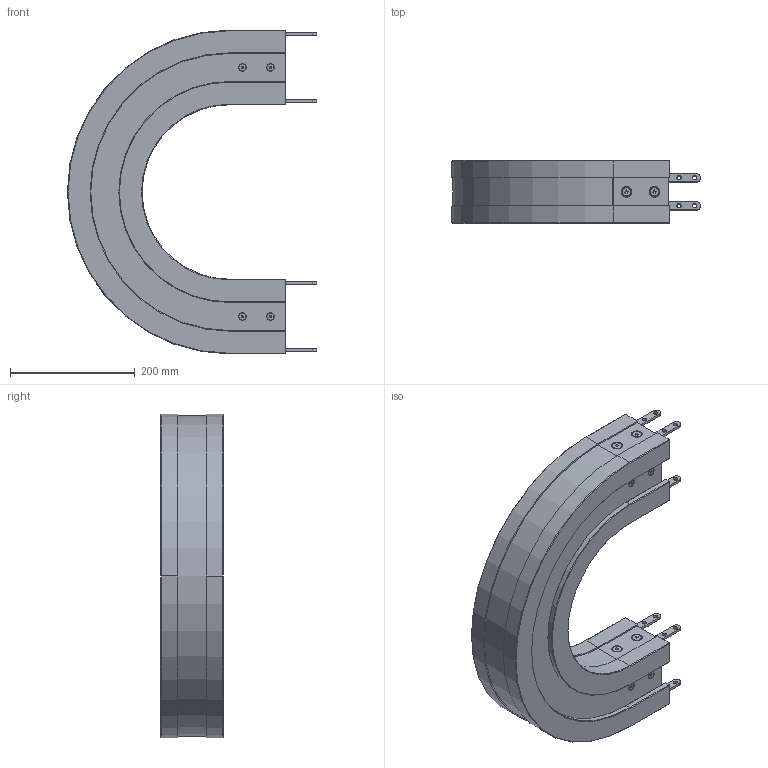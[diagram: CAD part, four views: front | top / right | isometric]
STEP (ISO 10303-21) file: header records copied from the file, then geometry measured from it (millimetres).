
FILE_DESCRIPTION (( 'STEP AP203' ), '1' );
FILE_NAME ('2000.450.418.STEP', '2015-04-15T13:11:52', ( '' ), ( '' ), 'SwSTEP 2.0', 'SolidWorks 2012', '' );
FILE_SCHEMA (( 'CONFIG_CONTROL_DESIGN' ));
Length unit declared in the file: millimetre
Products named in the file (1): 2000.450.418
Bounding box: 400 x 101 x 520 mm (x, y, z)
Volume: 4288905.1 mm3; surface area: 1118183.5 mm2
Topology: 26 solids, 26 shells, 2532 faces, 6658 edges, 4162 vertices
Faces by surface type: cone 1090, cylinder 834, plane 576, torus 32
Entity records: 78695 total; most frequent: DIRECTION 15042, CARTESIAN_POINT 13321, ORIENTED_EDGE 13252, EDGE_CURVE 6626, AXIS2_PLACEMENT_3D 5883, VERTEX_POINT 4162, CIRCLE 3350, VECTOR 3276
